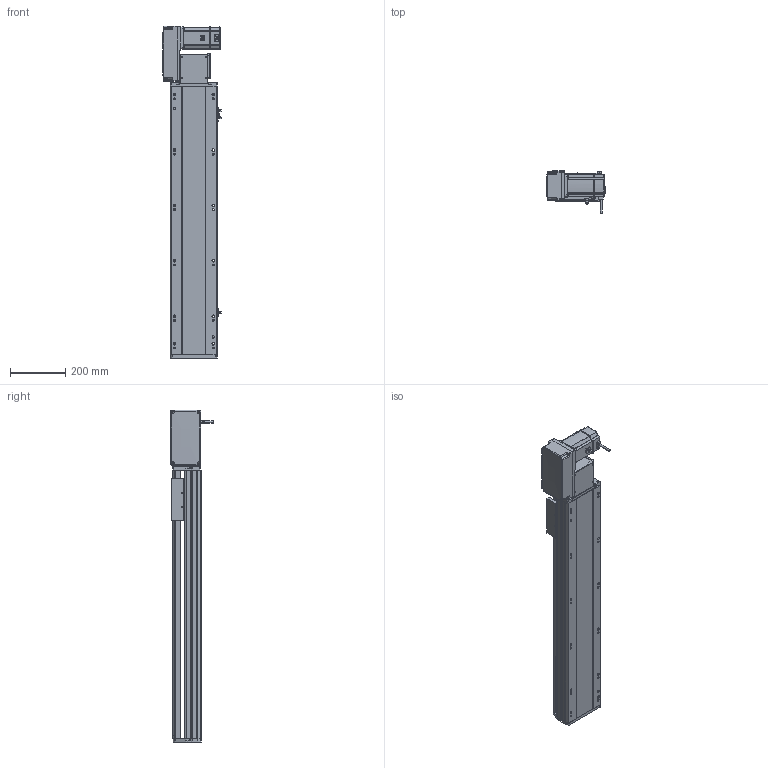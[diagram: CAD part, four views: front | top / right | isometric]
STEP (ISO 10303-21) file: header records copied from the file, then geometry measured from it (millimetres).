
FILE_DESCRIPTION (( 'STEP AP214' ), '1' );
FILE_NAME ('RTB17S-XX-700-L-M75-C4.STEP', '2025-12-12T00:10:10', ( '' ), ( '' ), 'SwSTEP 2.0', 'SolidWorks 2018', '' );
FILE_SCHEMA (( 'AUTOMOTIVE_DESIGN' ));
Length unit declared in the file: millimetre
Products named in the file (15): RTB17S-XX-700-L-M75-C4; RTB22S-GY-005P^RTB17S-L-々湍釱蚾饜-750W_RTB17S-XX-XX-L-M75-C4; RTB17S-L-007奻裔^RTB17S-XX-XX-L-M75-C4; RTB17S-L-々湍釱蚾饜-750W^RTB17S-XX-XX-L-M75-C4; RTB22S-GY-018P^RTB17S-L-々湍釱蚾饜-750W_RTB17S-XX-XX-L-M75-C4; EE672^RTB17S-XX-XX-L-M75-C4; RMP17S-L-014-T20-P75--々湍釱^RTB17S-L-々湍釱蚾饜-750W_RTB17S-XX-XX-L-M75-C4; RTB17S-L-001-耜醱啣^RTB17S-XX-XX-L-M75-C4; RTB17S-L-004-賑釱^RTB17S-賑釱_RTB17S-XX-XX-L-M75-C4; RTB22S-GY-008-M75--萇儂啣^RTB17S-L-々湍釱蚾饜-750W_RTB17S-XX-XX-L-M75-C4; 750W萇儂^RTB17S-XX-XX-L-M75-C4; RTB22S-GY-017P^RTB17S-L-々湍釱蚾饜-750W_RTB17S-XX-XX-L-M75-C4; RTB17S-賑釱^RTB17S-XX-XX-L-M75-C4; RTB17-R-011菁釱^RTB17S-XX-XX-L-M75-C4; RTH13-BL-012覜茼え俋离^RTB17S-賑釱_RTB17S-XX-XX-L-M75-C4
Assembly tree (17 placements, depth 3):
  RTB17S-XX-700-L-M75-C4
    RTB17-R-011菁釱^RTB17S-XX-XX-L-M75-C4
    EE672^RTB17S-XX-XX-L-M75-C4  x3
    RTB17S-L-001-耜醱啣^RTB17S-XX-XX-L-M75-C4
    RTB17S-賑釱^RTB17S-XX-XX-L-M75-C4
      RTB17S-L-004-賑釱^RTB17S-賑釱_RTB17S-XX-XX-L-M75-C4
      RTH13-BL-012覜茼え俋离^RTB17S-賑釱_RTB17S-XX-XX-L-M75-C4
    RTB17S-L-007奻裔^RTB17S-XX-XX-L-M75-C4
    750W萇儂^RTB17S-XX-XX-L-M75-C4
    RTB17S-L-々湍釱蚾饜-750W^RTB17S-XX-XX-L-M75-C4
      RMP17S-L-014-T20-P75--々湍釱^RTB17S-L-々湍釱蚾饜-750W_RTB17S-XX-XX-L-M75-C4
      RTB22S-GY-005P^RTB17S-L-々湍釱蚾饜-750W_RTB17S-XX-XX-L-M75-C4
      RTB22S-GY-017P^RTB17S-L-々湍釱蚾饜-750W_RTB17S-XX-XX-L-M75-C4  x2
      RTB22S-GY-008-M75--萇儂啣^RTB17S-L-々湍釱蚾饜-750W_RTB17S-XX-XX-L-M75-C4
      RTB22S-GY-018P^RTB17S-L-々湍釱蚾饜-750W_RTB17S-XX-XX-L-M75-C4
Bounding box: 210.4 x 152.7 x 1199 mm (x, y, z)
Volume: 10323170.3 mm3; surface area: 1703319.6 mm2
Topology: 17 solids, 17 shells, 2073 faces, 5728 edges, 3698 vertices
Faces by surface type: plane 968, cylinder 689, bspline 294, cone 110, sphere 8, torus 4
Entity records: 57334 total; most frequent: CARTESIAN_POINT 16792, ORIENTED_EDGE 8300, DIRECTION 7772, EDGE_CURVE 4150, AXIS2_PLACEMENT_3D 2718, VERTEX_POINT 2702, LINE 2336, VECTOR 2336
